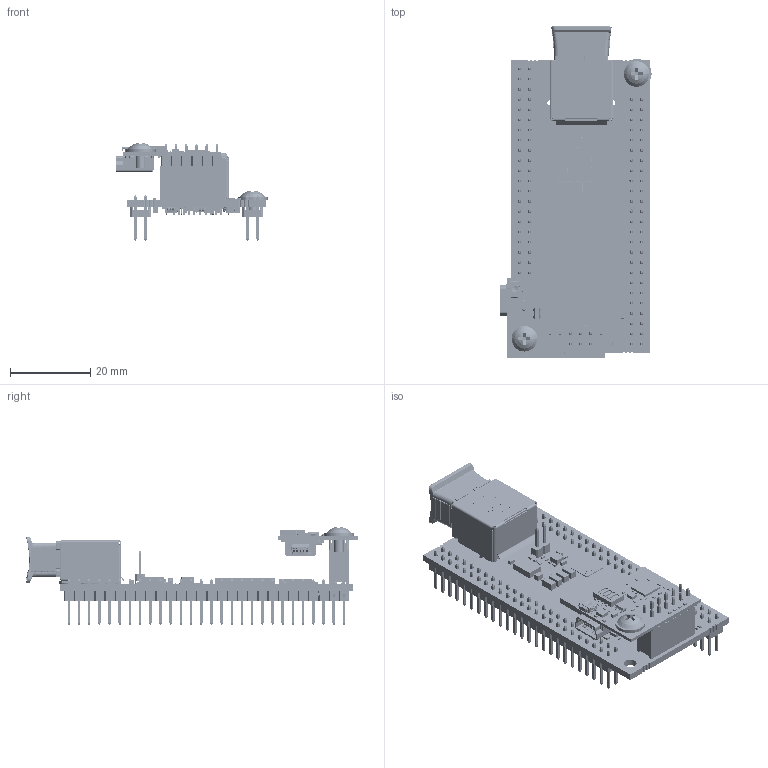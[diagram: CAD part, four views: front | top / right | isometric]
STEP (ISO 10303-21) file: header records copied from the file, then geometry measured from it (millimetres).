
FILE_DESCRIPTION(('Open CASCADE Model'),'2;1');
FILE_NAME('Open CASCADE Shape Model','2024-03-20T10:44:04',('Author'),( 'Open CASCADE'),'Open CASCADE STEP processor 7.5','Open CASCADE 7.5' ,'Unknown');
FILE_SCHEMA(('AUTOMOTIVE_DESIGN { 1 0 10303 214 1 1 1 1 }'));
Length unit declared in the file: millimetre
Products named in the file (691): PCB; Board=projectname; Open CASCADE STEP translator 7.5 1.1.1; R37=projectname; 6784220240; R11=projectname; 6784227360; R1=projectname; D4=projectname; 5121445088; R4=projectname; 6784220640; Serial=projectname; Label; U10=projectname; 7757328688; Extruded; 7757328448; Cylinder; R35=projectname; 6784219680; R5=projectname; C77=projectname; User Library-SMD CAPACITOR0402; C76=projectname; C75=projectname; User Library-SMD 0201 CAPACITOR; C20=projectname; C18=projectname; C17=projectname; 5121439488; C15=projectname; 6784221200; J3=projectname; pin_header_aw140-eg-g02d; D1=projectname; 5121449408; R36=projectname; R34=projectname; RES_0603-0201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
Assembly tree (856 placements, depth 6):
  PCB
    Board=projectname
      Open CASCADE STEP translator 7.5 1.1.1
    R37=projectname
      6784220240
    R11=projectname
      6784227360
    R1=projectname
      6784220240
    D4=projectname
      5121445088
    R4=projectname
      6784220640
    Serial=projectname
      Label
    U10=projectname
      7757328688
        Extruded
      7757328448
        Cylinder
    R35=projectname
      6784219680
    R5=projectname
      6784219680
    C77=projectname
      User Library-SMD CAPACITOR0402
    C76=projectname
      User Library-SMD CAPACITOR0402
    C75=projectname
      User Library-SMD 0201 CAPACITOR
    C20=projectname
      User Library-SMD 0201 CAPACITOR
    C18=projectname
      User Library-SMD CAPACITOR0402
    C17=projectname
      5121439488
    C15=projectname
      6784221200
    J3=projectname
      pin_header_aw140-eg-g02d
    D1=projectname
      5121449408
    R36=projectname
      6784227360
    R34=projectname
      RES_0603-0201
    L4=projectname
      742692003
        Open CASCADE STEP translator 7.5 1.22.1.1
        Open CASCADE STEP translator 7.5 1.22.1.2
        Open CASCADE STEP translator 7.5 1.22.1.3
    C12=projectname
      6784217760
    R33=projectname
      User Library-RESC1608X05N
    R32=projectname
      RES_0603-0201
    R31=projectname
      RES_0603-0201
    R30=projectname
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Bounding box: 37.69 x 82.76 x 24.42 mm (x, y, z)
Volume: 10955.2 mm3; surface area: 20414.6 mm2
Topology: 485 solids, 867 shells, 17412 faces, 43621 edges, 26775 vertices
Faces by surface type: plane 10122, cylinder 4774, sphere 1260, bspline 1100, torus 129, cone 23, revolution 4
Full cylindrical faces by diameter (mm): 0.4 x4, 0.6 x1, 0.8 x15, 1 x134, 1.2 x1, 1.3 x4, 2.4 x2, 3.2 x5
Entity records: 334839 total; most frequent: CARTESIAN_POINT 63082, ORIENTED_EDGE 38646, DIRECTION 38118, EDGE_CURVE 20336, LINE 15210, VECTOR 15210, VERTEX_POINT 13534, PRESENTATION_STYLE_ASSIGNMENT 12173
